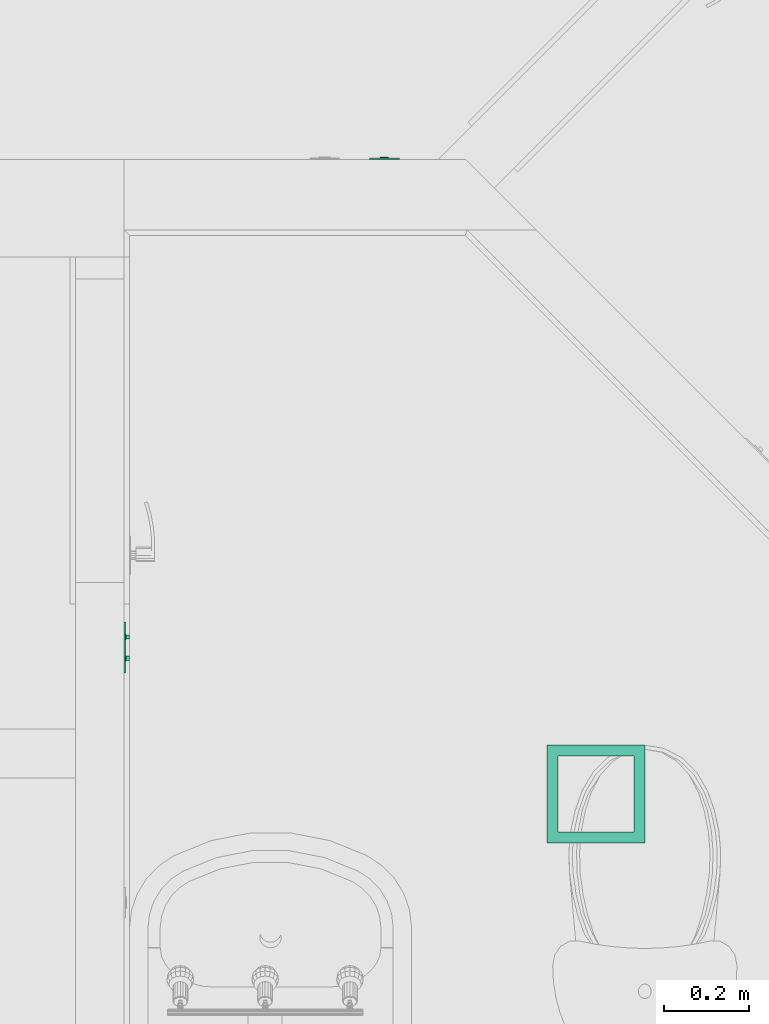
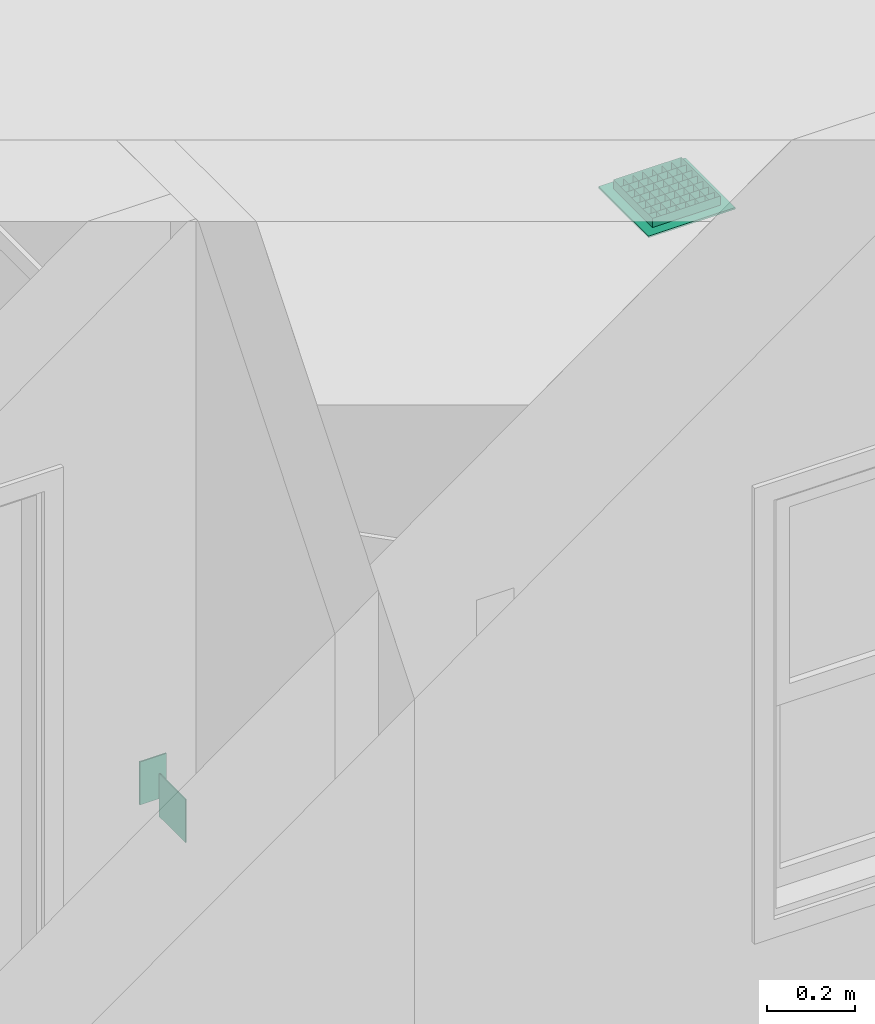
# One storey, part 13 of 103: 2 flow controllers, 1 distribution flow element.
"""IFC2X3 building model written with IfcOpenShell, lengths in inches."""

import ifcopenshell
import ifcopenshell.guid

model = None  # the IFC model being written
_history = None  # IfcOwnerHistory: only IFC2X3 demands one
_inside = {}  # id of a spatial element -> (the spatial element, [elements in it])
_under = {}  # id of a project, library or spatial element -> (it, [spatial elements below it])
_declared = {}  # id of a project -> (the project, [libraries it declares])
_typed = {}  # id of a type object -> (the type object, [elements of that type])
_made_of = {}  # id of a material, layer set ... -> (it, [elements and type objects made of it])


def new_model(schema):
    """Start an empty IFC model of exactly this schema.

    Asked for "IFC4X3", IfcOpenShell would pick the latest addendum, in which some entities
    have other attributes; the version numbers below select the first issue.
    IFC2X3 requires an IfcOwnerHistory on every rooted entity: one is made here for all.
    """
    global model, _history
    if schema == "IFC4X3":
        model = ifcopenshell.file(schema_version=(4, 3, 0, 0))
    else:
        model = ifcopenshell.file(schema=schema)
    _inside.clear()
    _under.clear()
    _declared.clear()
    _typed.clear()
    _made_of.clear()
    _history = None
    if model.schema == "IFC2X3":
        org = make("IfcOrganization", Name="unknown")
        user = make(
            "IfcPersonAndOrganization",
            ThePerson=make("IfcPerson", FamilyName="unknown"),
            TheOrganization=org,
        )
        app = make(
            "IfcApplication",
            ApplicationDeveloper=org,
            Version="unknown",
            ApplicationFullName="unknown",
            ApplicationIdentifier="unknown",
        )
        _history = make(
            "IfcOwnerHistory",
            OwningUser=user,
            OwningApplication=app,
            ChangeAction="ADDED",
            CreationDate=0,
        )
    return model


def make(cls, **values):
    """One entity of the class cls with the attributes given. An attribute that is None is left unset."""
    return model.create_entity(
        cls, **{name: value for name, value in values.items() if value is not None}
    )


def entity(cls, *values):
    """Any entity or typed value of the class cls, its attributes in the order of the schema. None: left unset."""
    e = model.create_entity(cls)
    for i, value in enumerate(values):
        if value is not None:
            e[i] = value
    return e


def rooted(cls, **values):
    """An entity with a GlobalId (a new one), such as an element, a storey or a relation."""
    return make(cls, GlobalId=ifcopenshell.guid.new(), OwnerHistory=_history, **values)


def si_unit(unit_type, name, prefix=None):
    """IfcSIUnit, for example si_unit("LENGTHUNIT", "METRE", prefix="MILLI")."""
    return make("IfcSIUnit", UnitType=unit_type, Prefix=prefix, Name=name)


def converted_unit(unit_type, name, factor, base, dimensions=None, offset=None):
    """IfcConversionBasedUnit, such as the inch: factor (a typed value) times the base unit."""
    return make(
        "IfcConversionBasedUnit"
        if offset is None
        else "IfcConversionBasedUnitWithOffset",
        ConversionOffset=offset,
        Dimensions=None
        if dimensions is None
        else entity("IfcDimensionalExponents", *dimensions),
        UnitType=unit_type,
        Name=name,
        ConversionFactor=make(
            "IfcMeasureWithUnit", ValueComponent=factor, UnitComponent=base
        ),
    )


def derived_unit(unit_type, elements):
    """IfcDerivedUnit: a product of units, each with its exponent."""
    return make(
        "IfcDerivedUnit",
        Elements=[
            make("IfcDerivedUnitElement", Unit=unit, Exponent=power)
            for unit, power in elements
        ],
        UnitType=unit_type,
    )


def money_unit(currency):
    """IfcMonetaryUnit."""
    return make("IfcMonetaryUnit", Currency=currency)


def assignment(units):
    """IfcUnitAssignment: the units of a project."""
    return None if units is None else make("IfcUnitAssignment", Units=units)


def point(xyz):
    """IfcCartesianPoint."""
    return None if xyz is None else make("IfcCartesianPoint", Coordinates=xyz)


def direction(xyz):
    """IfcDirection."""
    return None if xyz is None else make("IfcDirection", DirectionRatios=xyz)


def frame(location, z_axis=None, x_axis=None):
    """IfcAxis2Placement3D, a coordinate frame: its origin and axes. An axis left out is left unset."""
    return make(
        "IfcAxis2Placement3D",
        Location=point(location),
        Axis=direction(z_axis),
        RefDirection=direction(x_axis),
    )


def origin_with_axes():
    """The frame at (0, 0, 0) with the z axis (0, 0, 1) and the x axis (1, 0, 0) written out."""
    return frame((0.0, 0.0, 0.0), z_axis=(0.0, 0.0, 1.0), x_axis=(1.0, 0.0, 0.0))


def place(relative_to, where):
    """IfcLocalPlacement: puts the frame where relative to a parent placement (None: the world)."""
    return make(
        "IfcLocalPlacement", PlacementRelTo=relative_to, RelativePlacement=where
    )


def context(
    kind, dimensions, precision=None, world=None, true_north=None, identifier=None
):
    """IfcGeometricRepresentationContext, for example the 3D "Model" context."""
    return make(
        "IfcGeometricRepresentationContext",
        ContextIdentifier=identifier,
        ContextType=kind,
        CoordinateSpaceDimension=dimensions,
        Precision=precision,
        WorldCoordinateSystem=world,
        TrueNorth=true_north,
    )


def subcontext(parent, identifier, kind, view, scale=None):
    """IfcGeometricRepresentationSubContext, for example "Body" below "Model"."""
    return make(
        "IfcGeometricRepresentationSubContext",
        ContextIdentifier=identifier,
        ContextType=kind,
        ParentContext=parent,
        TargetScale=scale,
        TargetView=view,
    )


def project(units=None, contexts=None):
    """IfcProject with its units and contexts."""
    return rooted(
        "IfcProject",
        Name="project",
        RepresentationContexts=contexts,
        UnitsInContext=assignment(units),
    )


def spatial(cls, under=None, at=None, **own):
    """A site, building, storey or space (cls), placed at a placement, below another one or the project."""
    s = rooted(cls, ObjectPlacement=at, **own)
    if under is not None:
        _under.setdefault(under.id(), (under, []))[1].append(s)
    return s


def faces_of(points, faces, orient=None, outer=None):
    """IfcFace entities. A face is a list of loops; a loop is a list of indices into points, from 0.

    orient and outer hold one flag for each loop. By default every Orientation is true, the
    first loop of a face is its IfcFaceOuterBound and the others are IfcFaceBound.
    """
    made = []
    for i, loops in enumerate(faces):
        bounds = []
        for j, loop in enumerate(loops):
            is_outer = j == 0 if outer is None else outer[i][j]
            bounds.append(
                make(
                    "IfcFaceOuterBound" if is_outer else "IfcFaceBound",
                    Bound=make("IfcPolyLoop", Polygon=[points[k] for k in loop]),
                    Orientation=True if orient is None else orient[i][j],
                )
            )
        made.append(make("IfcFace", Bounds=bounds))
    return made


def open_shell(faces, orient=None, outer=None):
    """The faces of one IfcOpenShell. surface_model builds it on its shared points."""
    return ("IfcOpenShell", faces, orient, outer)


def faceted_brep(points, faces, orient=None, outer=None, voids=None):
    """IfcFacetedBrep: a solid bounded by flat faces; with voids (closed shells), ...WithVoids."""
    shared = [point(p) for p in points]
    hull = make("IfcClosedShell", CfsFaces=faces_of(shared, faces, orient, outer))
    if voids is None:
        return make("IfcFacetedBrep", Outer=hull)
    return make(
        "IfcFacetedBrepWithVoids",
        Outer=hull,
        Voids=[
            make(cls, CfsFaces=faces_of(shared, fs, o, b)) for cls, fs, o, b in voids
        ],
    )


def surface_model(cls, points, shells):
    """IfcFaceBasedSurfaceModel or IfcShellBasedSurfaceModel (cls): surfaces that need not close."""
    shared = [point(p) for p in points]
    made = [make(c, CfsFaces=faces_of(shared, fs, o, b)) for c, fs, o, b in shells]
    if cls == "IfcFaceBasedSurfaceModel":
        return make(cls, FbsmFaces=made)
    return make(cls, SbsmBoundary=made)


def shape(context_of_items, identifier, shape_type, items):
    """IfcShapeRepresentation: the items that make up one representation, for example the "Body"."""
    return make(
        "IfcShapeRepresentation",
        ContextOfItems=context_of_items,
        RepresentationIdentifier=identifier,
        RepresentationType=shape_type,
        Items=items,
    )


def source(mapping_origin, context_of_items, identifier, shape_type, items):
    """IfcRepresentationMap: a shape defined once, which mapped items show again and again."""
    return make(
        "IfcRepresentationMap",
        MappingOrigin=mapping_origin,
        MappedRepresentation=shape(context_of_items, identifier, shape_type, items),
    )


def transform(
    local_origin,
    x_axis=None,
    y_axis=None,
    z_axis=None,
    scale=None,
    scale2=None,
    scale3=None,
    uniform=True,
):
    """IfcCartesianTransformationOperator3D, or its non-uniform kind. x_axis, y_axis, z_axis: its Axis1, 2, 3."""
    if uniform:
        return make(
            "IfcCartesianTransformationOperator3D",
            Axis1=direction(x_axis),
            Axis2=direction(y_axis),
            LocalOrigin=point(local_origin),
            Scale=scale,
            Axis3=direction(z_axis),
        )
    return make(
        "IfcCartesianTransformationOperator3DnonUniform",
        Axis1=direction(x_axis),
        Axis2=direction(y_axis),
        LocalOrigin=point(local_origin),
        Scale=scale,
        Axis3=direction(z_axis),
        Scale2=scale2,
        Scale3=scale3,
    )


def mapped(mapping_source, mapping_target):
    """IfcMappedItem: shows the shape of a source again, moved by a transform."""
    return make(
        "IfcMappedItem", MappingSource=mapping_source, MappingTarget=mapping_target
    )


def made_of(thing, what):
    """Note that an element or type object is made of a material, layer set ...; save() writes the relation."""
    if what is not None:
        _made_of.setdefault(what.id(), (what, []))[1].append(thing)
    return thing


def type_object(cls, material=None, **own):
    """A type object (cls), such as IfcWallType, which elements share."""
    return made_of(rooted(cls, **own), material)


def element(
    cls,
    number,
    at=None,
    inside=None,
    cuts=None,
    type_object=None,
    material=None,
    context=None,
    identifier="Body",
    shape_type=None,
    held_by="IfcProductDefinitionShape",
    body=None,
    shapes=None,
    **own,
):
    """One element of the class cls, such as IfcWall. Its Tag is "e" and its number.

    at: its placement. inside: the storey or other place that contains it. cuts: it is an
    opening in that element (IfcRelVoidsElement). A single representation is given by context,
    identifier, shape_type and body (its items); several are given by shapes. held_by: the class
    of the entity that holds the representations. save() writes the other relations.
    """
    e = rooted(cls, Tag="e%d" % number, ObjectPlacement=at, **own)
    if body is not None:
        shapes = [shape(context, identifier, shape_type, body)]
    if shapes is not None:
        e.Representation = make(held_by, Representations=shapes)
    if inside is not None:
        _inside.setdefault(inside.id(), (inside, []))[1].append(e)
    if cuts is not None:
        rooted(
            "IfcRelVoidsElement", RelatingBuildingElement=cuts, RelatedOpeningElement=e
        )
    if type_object is not None:
        _typed.setdefault(type_object.id(), (type_object, []))[1].append(e)
    return made_of(e, material)


def aggregate(whole, parts):
    """IfcRelAggregates: a whole, such as a stair, and the parts it consists of."""
    return rooted("IfcRelAggregates", RelatingObject=whole, RelatedObjects=parts)


def save(model, path):
    """Write the relations noted so far, then the file.

    IfcRelAggregates (storeys below a building ...), IfcRelContainedInSpatialStructure (elements
    in a storey), IfcRelDefinesByType, IfcRelAssociatesMaterial and IfcRelDeclares: one each for
    every whole, place, type object, material and project.
    """
    for whole, parts in _under.values():
        aggregate(whole, parts)
    for where, things in _inside.values():
        rooted(
            "IfcRelContainedInSpatialStructure",
            RelatedElements=things,
            RelatingStructure=where,
        )
    for kind, things in _typed.values():
        rooted("IfcRelDefinesByType", RelatedObjects=things, RelatingType=kind)
    for what, things in _made_of.values():
        rooted("IfcRelAssociatesMaterial", RelatedObjects=things, RelatingMaterial=what)
    for by, libraries in _declared.values():
        rooted("IfcRelDeclares", RelatingContext=by, RelatedDefinitions=libraries)
    model.write(path)


model = new_model("IFC2X3")

# Units and contexts
model_context = context("Model", 3, precision=0.00039370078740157, world=origin_with_axes(), true_north=direction((0.0, 1.0)))
plan_context = context("Plan", 3, precision=0.00039370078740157, world=origin_with_axes(), true_north=direction((0.0, 1.0)))
body_context = subcontext(model_context, "Body", "Model", "MODEL_VIEW")
ifc_project = project(units=[converted_unit("LENGTHUNIT", "INCH", entity("IfcPositiveLengthMeasure", 0.0254), si_unit("LENGTHUNIT", "METRE"), dimensions=[1, 0, 0, 0, 0, 0, 0]), converted_unit("AREAUNIT", "SQUARE_FOOT", entity("IfcPositiveLengthMeasure", 0.09290304), si_unit("AREAUNIT", "SQUARE_METRE"), dimensions=[2, 0, 0, 0, 0, 0, 0]), si_unit("PLANEANGLEUNIT", "RADIAN"), si_unit("SOLIDANGLEUNIT", "STERADIAN"), money_unit("USD"), converted_unit("TIMEUNIT", "Year", entity("IfcTimeMeasure", 31557600.0), si_unit("TIMEUNIT", "SECOND"), dimensions=[0, 0, 1, 0, 0, 0, 0]), si_unit("MASSUNIT", "GRAM", prefix="KILO"), si_unit("THERMODYNAMICTEMPERATUREUNIT", "DEGREE_CELSIUS"), si_unit("LUMINOUSINTENSITYUNIT", "LUMEN"), si_unit("ENERGYUNIT", "JOULE", prefix="MEGA"), derived_unit("SPECIFICHEATCAPACITYUNIT", [(si_unit("ENERGYUNIT", "JOULE"), 1), (si_unit("MASSUNIT", "GRAM", prefix="KILO"), -1), (si_unit("THERMODYNAMICTEMPERATUREUNIT", "KELVIN"), -1)])], contexts=[model_context, plan_context])

# Site, building, storey
site_placement = place(None, origin_with_axes())
site = spatial("IfcSite", under=ifc_project, at=site_placement, Name="Site", CompositionType="ELEMENT")
building_placement = place(site_placement, origin_with_axes())
building = spatial("IfcBuilding", under=site, at=building_placement, Name="Building", CompositionType="ELEMENT")
storey_placement = place(building_placement, frame((0.0, 0.0, 127.9999999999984), z_axis=(0.0, 0.0, 1.0), x_axis=(1.0, 0.0, 0.0)))
storey = spatial("IfcBuildingStorey", under=building, at=storey_placement, Name="Second Floor", CompositionType="ELEMENT", Elevation=128.0)

# Flow controller
switching_device_type_1 = type_object("IfcSwitchingDeviceType", Name="Outlet 1 US", PredefinedType="NOTDEFINED")
shared_shape_1 = source(origin_with_axes(), body_context, "Body", "Brep", [
    faceted_brep([(0.39370078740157, -0.0344488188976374, -0.472440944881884), (0.3937007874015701, -0.03444881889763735, 0.472440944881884), (0.3937007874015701, -0.2165354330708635, 0.472440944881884), (0.39370078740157, -0.2165354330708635, -0.472440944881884), (-0.3937007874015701, -0.0344488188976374, -0.4724409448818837), (-0.39370078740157, -0.03444881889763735, 0.472440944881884), (-0.39370078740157, -0.2165354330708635, 0.472440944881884), (-0.3937007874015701, -0.2165354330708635, -0.4724409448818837)], [[[0, 1, 2, 3]], [[0, 4, 5, 1]], [[1, 5, 6, 2]], [[3, 2, 6, 7]], [[4, 0, 3, 7]], [[5, 4, 7, 6]]]),
    faceted_brep([(1.377952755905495, -0.1377952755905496, -2.36220472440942), (1.377952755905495, -0.1377952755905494, 2.36220472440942), (-1.377952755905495, -0.1377952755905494, 2.36220472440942), (-1.377952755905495, -0.1377952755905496, -2.36220472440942), (-0.3937007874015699, -0.1377952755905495, -0.4724409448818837), (-0.39370078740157, -0.1377952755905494, 0.4724409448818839), (0.3937007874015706, -0.1377952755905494, 0.4724409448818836), (0.39370078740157, -0.1377952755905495, -0.472440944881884), (1.377952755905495, 0.0, 2.36220472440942), (1.377952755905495, 0.0, -2.36220472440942), (-1.377952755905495, 0.0, 2.36220472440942), (-1.377952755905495, 0.0, -2.36220472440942), (-0.3937007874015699, -0.0344488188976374, -0.4724409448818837), (-0.39370078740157, -0.03444881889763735, 0.4724409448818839), (0.3937007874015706, -0.03444881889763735, 0.4724409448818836), (0.39370078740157, -0.0344488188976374, -0.472440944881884)], [[[0, 1, 2, 3], [4, 5, 6, 7]], [[8, 1, 0, 9]], [[10, 2, 1, 8]], [[11, 3, 2, 10]], [[9, 0, 3, 11]], [[5, 4, 12, 13]], [[6, 5, 13, 14]], [[7, 6, 14, 15]], [[4, 7, 15, 12]], [[10, 8, 9, 11]], [[14, 13, 12, 15]]]),
])
flow_controller_1_placement = place(storey_placement, frame((339.499844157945, 88.49999999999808, 13.99999999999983), z_axis=(0.0, 0.0, 1.0), x_axis=(-1.0, 0.0, 0.0)))
element("IfcFlowController", 1, at=flow_controller_1_placement, inside=storey, type_object=switching_device_type_1, Name="OBJ-05", context=body_context, shape_type="MappedRepresentation", body=[
    mapped(shared_shape_1, transform((0.0, 0.0, 0.0))),
])

# Distribution flow element
valve_type = type_object("IfcValveType", Name="Ceiling Grille", PredefinedType="NOTDEFINED")
shared_shape_2 = source(origin_with_axes(), body_context, "Body", "SurfaceModel", [
    faceted_brep([(-4.499876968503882, 4.499876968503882, -0.196850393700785), (-4.499876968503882, 4.499876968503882, 0.0), (4.499876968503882, 4.499876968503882, 0.0), (4.499876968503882, 4.499876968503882, -0.196850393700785), (-4.499876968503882, -4.499876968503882, -0.196850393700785), (-4.499876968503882, -4.499876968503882, 0.0), (4.499876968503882, -4.499876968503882, 0.0), (-3.515624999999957, 3.515624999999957, 0.0), (3.515624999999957, 3.515624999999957, 0.0), (3.515624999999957, -3.515624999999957, 0.0), (-3.515624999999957, -3.515624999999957, 0.0), (4.499876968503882, -4.499876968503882, -0.196850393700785), (-3.515624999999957, 3.515624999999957, -0.196850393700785), (-3.515624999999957, -3.515624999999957, -0.196850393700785), (3.515624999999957, -3.515624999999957, -0.196850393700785), (3.515624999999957, 3.515624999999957, -0.196850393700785)], [[[0, 1, 2, 3]], [[4, 5, 1, 0]], [[1, 5, 6, 2], [7, 8, 9, 10]], [[3, 2, 6, 11]], [[0, 3, 11, 4], [12, 13, 14, 15]], [[11, 6, 5, 4]], [[15, 8, 7, 12]], [[14, 9, 8, 15]], [[13, 10, 9, 14]], [[12, 7, 10, 13]]]),
    surface_model("IfcShellBasedSurfaceModel", [(3.4762549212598, 3.499999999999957, -0.196850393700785), (3.4762549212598, 3.499999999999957, 0.78740157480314), (-3.4762549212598, 3.499999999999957, 0.78740157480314), (-3.4762549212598, 3.499999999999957, -0.196850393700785)], [open_shell([[[0, 1, 2, 3]]])]),
    surface_model("IfcShellBasedSurfaceModel", [(3.4762549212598, 2.499999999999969, -0.196850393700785), (3.4762549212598, 2.499999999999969, 0.78740157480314), (-3.4762549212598, 2.499999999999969, 0.78740157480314), (-3.4762549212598, 2.499999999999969, -0.196850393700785)], [open_shell([[[0, 1, 2, 3]]])]),
    surface_model("IfcShellBasedSurfaceModel", [(3.4762549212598, 1.499999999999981, -0.196850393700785), (3.4762549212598, 1.499999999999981, 0.78740157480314), (-3.4762549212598, 1.499999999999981, 0.78740157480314), (-3.4762549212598, 1.499999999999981, -0.196850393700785)], [open_shell([[[0, 1, 2, 3]]])]),
    surface_model("IfcShellBasedSurfaceModel", [(3.4762549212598, 0.499999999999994, -0.196850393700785), (3.4762549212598, 0.4999999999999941, 0.78740157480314), (-3.4762549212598, 0.4999999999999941, 0.78740157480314), (-3.4762549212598, 0.499999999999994, -0.196850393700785)], [open_shell([[[0, 1, 2, 3]]])]),
    surface_model("IfcShellBasedSurfaceModel", [(3.4762549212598, -0.499999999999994, -0.196850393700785), (3.4762549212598, -0.4999999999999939, 0.78740157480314), (-3.4762549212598, -0.4999999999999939, 0.78740157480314), (-3.4762549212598, -0.499999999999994, -0.196850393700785)], [open_shell([[[0, 1, 2, 3]]])]),
    surface_model("IfcShellBasedSurfaceModel", [(3.4762549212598, -1.499999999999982, -0.196850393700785), (3.4762549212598, -1.499999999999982, 0.78740157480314), (-3.4762549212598, -1.499999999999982, 0.78740157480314), (-3.4762549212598, -1.499999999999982, -0.196850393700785)], [open_shell([[[0, 1, 2, 3]]])]),
    surface_model("IfcShellBasedSurfaceModel", [(3.4762549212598, -2.499999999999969, -0.196850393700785), (3.4762549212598, -2.499999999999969, 0.78740157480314), (-3.4762549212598, -2.499999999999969, 0.78740157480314), (-3.4762549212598, -2.499999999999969, -0.196850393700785)], [open_shell([[[0, 1, 2, 3]]])]),
    surface_model("IfcShellBasedSurfaceModel", [(3.4762549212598, -3.499999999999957, -0.196850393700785), (3.4762549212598, -3.499999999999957, 0.78740157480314), (-3.4762549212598, -3.499999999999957, 0.78740157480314), (-3.4762549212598, -3.499999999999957, -0.196850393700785)], [open_shell([[[0, 1, 2, 3]]])]),
    surface_model("IfcShellBasedSurfaceModel", [(-3.499999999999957, -3.4762549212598, -0.196850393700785), (-3.499999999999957, -3.4762549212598, 0.78740157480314), (-3.499999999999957, 3.4762549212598, 0.78740157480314), (-3.499999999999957, 3.4762549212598, -0.196850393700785)], [open_shell([[[0, 1, 2, 3]]])]),
    surface_model("IfcShellBasedSurfaceModel", [(-2.499999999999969, -3.4762549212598, -0.196850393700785), (-2.499999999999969, -3.4762549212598, 0.78740157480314), (-2.49999999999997, 3.4762549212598, 0.78740157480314), (-2.49999999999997, 3.4762549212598, -0.196850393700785)], [open_shell([[[0, 1, 2, 3]]])]),
    surface_model("IfcShellBasedSurfaceModel", [(-1.499999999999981, -3.4762549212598, -0.196850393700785), (-1.499999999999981, -3.4762549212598, 0.78740157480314), (-1.499999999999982, 3.4762549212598, 0.78740157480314), (-1.499999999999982, 3.4762549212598, -0.196850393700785)], [open_shell([[[0, 1, 2, 3]]])]),
    surface_model("IfcShellBasedSurfaceModel", [(-0.499999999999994, -3.4762549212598, -0.196850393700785), (-0.4999999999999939, -3.4762549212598, 0.78740157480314), (-0.4999999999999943, 3.4762549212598, 0.78740157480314), (-0.4999999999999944, 3.4762549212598, -0.196850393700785)], [open_shell([[[0, 1, 2, 3]]])]),
    surface_model("IfcShellBasedSurfaceModel", [(0.499999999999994, -3.4762549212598, -0.196850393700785), (0.4999999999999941, -3.4762549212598, 0.78740157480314), (0.4999999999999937, 3.4762549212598, 0.78740157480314), (0.4999999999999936, 3.4762549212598, -0.196850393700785)], [open_shell([[[0, 1, 2, 3]]])]),
    surface_model("IfcShellBasedSurfaceModel", [(1.499999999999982, -3.4762549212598, -0.196850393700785), (1.499999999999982, -3.4762549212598, 0.78740157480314), (1.499999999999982, 3.4762549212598, 0.78740157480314), (1.499999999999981, 3.4762549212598, -0.196850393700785)], [open_shell([[[0, 1, 2, 3]]])]),
    surface_model("IfcShellBasedSurfaceModel", [(2.499999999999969, -3.4762549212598, -0.196850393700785), (2.499999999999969, -3.4762549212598, 0.78740157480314), (2.499999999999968, 3.4762549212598, 0.78740157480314), (2.499999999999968, 3.4762549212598, -0.196850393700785)], [open_shell([[[0, 1, 2, 3]]])]),
    surface_model("IfcShellBasedSurfaceModel", [(3.499999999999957, -3.4762549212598, -0.196850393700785), (3.499999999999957, -3.4762549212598, 0.78740157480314), (3.499999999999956, 3.4762549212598, 0.78740157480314), (3.499999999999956, 3.4762549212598, -0.196850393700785)], [open_shell([[[0, 1, 2, 3]]])]),
    surface_model("IfcShellBasedSurfaceModel", [(-3.515624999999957, -3.515624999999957, 0.0), (-3.515624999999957, -3.515624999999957, 0.999999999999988), (-3.515624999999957, 3.515624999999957, 0.9999999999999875), (-3.515624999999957, 3.515624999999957, 0.0), (3.515624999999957, -3.515624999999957, 0.0), (3.515624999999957, -3.515624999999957, 0.999999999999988), (3.515624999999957, 3.515624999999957, 0.9999999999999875), (3.515624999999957, 3.515624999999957, 0.0)], [open_shell([[[0, 1, 2, 3]], [[4, 5, 1, 0]], [[3, 2, 6, 7]], [[7, 6, 5, 4]]])]),
])
distribution_flow_element_placement = place(storey_placement, frame((358.9998769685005, 30.00012303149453, 106.4999999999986), z_axis=(0.0, 0.0, 1.0), x_axis=(-1.0, 0.0, 0.0)))
element("IfcDistributionFlowElement", 2, at=distribution_flow_element_placement, inside=storey, type_object=valve_type, Name="FU - 007", context=body_context, shape_type="MappedRepresentation", body=[
    mapped(shared_shape_2, transform((0.0, 0.0, 0.0))),
])

# Flow controller
switching_device_type_2 = type_object("IfcSwitchingDeviceType", Name="Switch US", PredefinedType="NOTDEFINED")
shared_shape_3 = source(origin_with_axes(), body_context, "Body", "Brep", [
    faceted_brep([(1.18110236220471, 0.0, -0.5905511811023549), (0.7874015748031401, 0.0, -0.5905511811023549), (0.7874015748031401, 0.0, 0.5905511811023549), (1.18110236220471, 0.0, 0.5905511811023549), (1.18110236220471, -0.1033464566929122, -0.5905511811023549), (0.7874015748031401, -0.1033464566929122, -0.5905511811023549), (0.7874015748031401, -0.1033464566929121, 0.157480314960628), (0.7874015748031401, -0.4970472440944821, 0.1574803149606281), (0.7874015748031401, -0.4970472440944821, 0.472440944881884), (0.7874015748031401, -0.1033464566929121, 0.472440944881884), (0.7874015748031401, -0.1033464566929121, 0.5905511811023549), (1.18110236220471, -0.103346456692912, 0.5905511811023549), (1.18110236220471, -0.1033464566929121, 0.472440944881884), (1.18110236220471, -0.4970472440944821, 0.472440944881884), (1.18110236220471, -0.4970472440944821, 0.1574803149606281), (1.18110236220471, -0.1033464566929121, 0.157480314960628)], [[[0, 1, 2, 3]], [[4, 5, 1, 0]], [[1, 5, 6, 7, 8, 9, 10, 2]], [[3, 2, 10, 11]], [[0, 3, 11, 12, 13, 14, 15, 4]], [[15, 6, 5, 4]], [[14, 7, 6, 15]], [[13, 8, 7, 14]], [[12, 9, 8, 13]], [[11, 10, 9, 12]]]),
    faceted_brep([(1.259842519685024, 0.0, -0.669291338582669), (1.259842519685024, -0.1771653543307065, -0.669291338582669), (0.7086614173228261, -0.1771653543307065, -0.669291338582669), (0.7086614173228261, 0.0, -0.669291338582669), (1.259842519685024, 0.0, 0.669291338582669), (1.259842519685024, -0.1771653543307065, 0.669291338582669), (0.7086614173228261, -0.1771653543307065, 0.669291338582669), (1.18110236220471, -0.1771653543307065, -0.5905511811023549), (0.78740157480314, -0.1771653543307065, -0.5905511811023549), (0.78740157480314, -0.1771653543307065, 0.5905511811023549), (1.18110236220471, -0.1771653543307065, 0.5905511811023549), (0.7086614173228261, 0.0, 0.669291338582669), (1.18110236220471, 0.0, -0.5905511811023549), (1.18110236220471, 0.0, 0.5905511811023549), (0.78740157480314, 0.0, 0.5905511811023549), (0.78740157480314, 0.0, -0.5905511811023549)], [[[0, 1, 2, 3]], [[4, 5, 1, 0]], [[1, 5, 6, 2], [7, 8, 9, 10]], [[3, 2, 6, 11]], [[0, 3, 11, 4], [12, 13, 14, 15]], [[11, 6, 5, 4]], [[15, 8, 7, 12]], [[14, 9, 8, 15]], [[13, 10, 9, 14]], [[12, 7, 10, 13]]]),
    faceted_brep([(0.0, -0.103346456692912, 2.362204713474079), (2.362204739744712, -0.103346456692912, 2.362204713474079), (2.36220472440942, 0.0, 2.36220472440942), (0.0, 0.0, 2.36220472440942), (0.0, -0.1122624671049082, 2.361030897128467), (2.361030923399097, -0.1122624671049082, 2.361030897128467), (2.362204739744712, -0.1033464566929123, -2.36220473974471), (2.36220472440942, 0.0, -2.36220472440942), (0.0, 0.0, -2.36220472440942), (0.7086614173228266, 0.0, -0.669291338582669), (1.259842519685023, 0.0, -0.669291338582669), (1.259842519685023, 0.0, 0.669291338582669), (0.7086614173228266, 0.0, 0.669291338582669), (0.0, -0.1033464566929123, -2.36220473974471), (0.0, -0.1122624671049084, -2.361030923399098), (0.0, -0.1277054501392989, -2.352114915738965), (0.0, -0.1366214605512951, -2.336671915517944), (0.0, -0.1377952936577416, -2.327755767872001), (0.0, -0.1377952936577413, 2.32775574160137), (0.0, -0.1366214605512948, 2.336671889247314), (0.0, -0.1277054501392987, 2.352114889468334), (2.352114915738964, -0.1277054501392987, 2.352114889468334), (2.361030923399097, -0.1122624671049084, -2.361030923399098), (0.7086614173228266, -0.1377952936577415, -0.669291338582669), (1.259842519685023, -0.1377952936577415, -0.669291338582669), (1.259842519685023, -0.1377952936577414, 0.669291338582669), (0.7086614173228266, -0.1377952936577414, 0.669291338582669), (2.352114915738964, -0.1277054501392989, -2.352114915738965), (2.336671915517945, -0.1366214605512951, -2.336671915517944), (2.327755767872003, -0.1377952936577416, -2.327755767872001), (2.327755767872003, -0.1377952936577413, 2.32775574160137), (2.336671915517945, -0.1366214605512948, 2.336671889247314)], [[[0, 1, 2, 3]], [[4, 5, 1, 0]], [[6, 7, 2, 1]], [[3, 2, 7, 8], [9, 10, 11, 12]], [[8, 13, 14, 15, 16, 17, 18, 19, 20, 4, 0, 3]], [[20, 21, 5, 4]], [[22, 6, 1, 5]], [[8, 7, 6, 13]], [[10, 9, 23, 24]], [[11, 10, 24, 25]], [[12, 11, 25, 26]], [[9, 12, 26, 23]], [[13, 6, 22, 14]], [[14, 22, 27, 15]], [[15, 27, 28, 16]], [[16, 28, 29, 17]], [[17, 29, 30, 18], [25, 24, 23, 26]], [[18, 30, 31, 19]], [[19, 31, 21, 20]], [[27, 22, 5, 21]], [[28, 27, 21, 31]], [[29, 28, 31, 30]]]),
    faceted_brep([(-0.78740157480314, 0.0, -0.5905511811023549), (-1.18110236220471, 0.0, -0.5905511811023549), (-1.18110236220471, 0.0, 0.5905511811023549), (-0.78740157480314, 0.0, 0.5905511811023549), (-0.78740157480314, -0.1033464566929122, -0.5905511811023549), (-1.18110236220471, -0.1033464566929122, -0.5905511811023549), (-1.18110236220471, -0.1033464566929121, 0.157480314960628), (-1.18110236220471, -0.4970472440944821, 0.1574803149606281), (-1.18110236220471, -0.4970472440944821, 0.472440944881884), (-1.18110236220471, -0.1033464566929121, 0.472440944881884), (-1.18110236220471, -0.1033464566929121, 0.5905511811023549), (-0.78740157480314, -0.103346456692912, 0.5905511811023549), (-0.78740157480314, -0.1033464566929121, 0.472440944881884), (-0.78740157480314, -0.4970472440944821, 0.472440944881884), (-0.78740157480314, -0.4970472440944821, 0.1574803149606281), (-0.78740157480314, -0.1033464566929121, 0.157480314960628)], [[[0, 1, 2, 3]], [[4, 5, 1, 0]], [[1, 5, 6, 7, 8, 9, 10, 2]], [[3, 2, 10, 11]], [[0, 3, 11, 12, 13, 14, 15, 4]], [[15, 6, 5, 4]], [[14, 7, 6, 15]], [[13, 8, 7, 14]], [[12, 9, 8, 13]], [[11, 10, 9, 12]]]),
    faceted_brep([(-0.7086614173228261, 0.0, -0.669291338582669), (-0.7086614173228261, -0.1771653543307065, -0.669291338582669), (-1.259842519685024, -0.1771653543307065, -0.669291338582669), (-1.259842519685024, 0.0, -0.669291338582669), (-0.7086614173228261, 0.0, 0.669291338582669), (-0.7086614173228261, -0.1771653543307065, 0.669291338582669), (-1.259842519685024, -0.1771653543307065, 0.669291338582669), (-0.78740157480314, -0.1771653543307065, -0.5905511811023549), (-1.18110236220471, -0.1771653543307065, -0.5905511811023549), (-1.18110236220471, -0.1771653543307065, 0.5905511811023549), (-0.78740157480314, -0.1771653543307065, 0.5905511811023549), (-1.259842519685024, 0.0, 0.669291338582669), (-0.78740157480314, 0.0, -0.5905511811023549), (-0.78740157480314, 0.0, 0.5905511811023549), (-1.18110236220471, 0.0, 0.5905511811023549), (-1.18110236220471, 0.0, -0.5905511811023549)], [[[0, 1, 2, 3]], [[4, 5, 1, 0]], [[1, 5, 6, 2], [7, 8, 9, 10]], [[3, 2, 6, 11]], [[0, 3, 11, 4], [12, 13, 14, 15]], [[11, 6, 5, 4]], [[15, 8, 7, 12]], [[14, 9, 8, 15]], [[13, 10, 9, 14]], [[12, 7, 10, 13]]]),
    faceted_brep([(0.0, 0.0, -2.36220472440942), (-2.362204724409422, 0.0, -2.36220472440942), (-2.362204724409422, 0.0, 2.36220472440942), (0.0, 0.0, 2.36220472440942), (-1.259842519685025, 0.0, -0.669291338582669), (-0.7086614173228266, 0.0, -0.669291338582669), (-0.7086614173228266, 0.0, 0.669291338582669), (-1.259842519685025, 0.0, 0.669291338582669), (0.0, -0.1033464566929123, -2.36220473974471), (-2.362204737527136, -0.1033464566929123, -2.36220473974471), (-2.362204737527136, -0.103346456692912, 2.362204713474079), (0.0, -0.103346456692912, 2.362204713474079), (0.0, -0.1122624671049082, 2.361030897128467), (0.0, -0.1277054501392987, 2.352114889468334), (0.0, -0.1366214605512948, 2.336671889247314), (0.0, -0.1377952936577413, 2.32775574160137), (0.0, -0.1377952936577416, -2.327755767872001), (0.0, -0.1366214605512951, -2.336671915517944), (0.0, -0.1277054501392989, -2.352114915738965), (0.0, -0.1122624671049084, -2.361030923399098), (-1.259842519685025, -0.1377952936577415, -0.669291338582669), (-0.7086614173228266, -0.1377952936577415, -0.669291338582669), (-0.7086614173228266, -0.1377952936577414, 0.669291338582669), (-1.259842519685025, -0.1377952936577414, 0.669291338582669), (-2.361030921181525, -0.1122624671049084, -2.361030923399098), (-2.361030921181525, -0.1122624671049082, 2.361030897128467), (-2.352114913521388, -0.1277054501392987, 2.352114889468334), (-2.336671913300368, -0.1366214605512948, 2.336671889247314), (-2.327755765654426, -0.1377952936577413, 2.32775574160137), (-2.327755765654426, -0.1377952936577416, -2.327755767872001), (-2.336671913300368, -0.1366214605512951, -2.336671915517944), (-2.352114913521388, -0.1277054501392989, -2.352114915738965)], [[[0, 1, 2, 3], [4, 5, 6, 7]], [[8, 9, 1, 0]], [[10, 2, 1, 9]], [[3, 2, 10, 11]], [[11, 12, 13, 14, 15, 16, 17, 18, 19, 8, 0, 3]], [[5, 4, 20, 21]], [[6, 5, 21, 22]], [[7, 6, 22, 23]], [[4, 7, 23, 20]], [[19, 24, 9, 8]], [[25, 10, 9, 24]], [[11, 10, 25, 12]], [[12, 25, 26, 13]], [[13, 26, 27, 14]], [[14, 27, 28, 15]], [[15, 28, 29, 16], [22, 21, 20, 23]], [[16, 29, 30, 17]], [[17, 30, 31, 18]], [[18, 31, 24, 19]], [[26, 25, 24, 31]], [[27, 26, 31, 30]], [[28, 27, 30, 29]]]),
])
flow_controller_2_placement = place(storey_placement, frame((315.499999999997, 43.49890152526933, 46.49999999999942), z_axis=(0.0, 0.0, 1.0), x_axis=(0.0, 1.0, 0.0)))
element("IfcFlowController", 3, at=flow_controller_2_placement, inside=storey, type_object=switching_device_type_2, Name="OBJ-09", context=body_context, shape_type="MappedRepresentation", body=[
    mapped(shared_shape_3, transform((0.0, 0.0, 0.0))),
])

save(model, "model.ifc")
